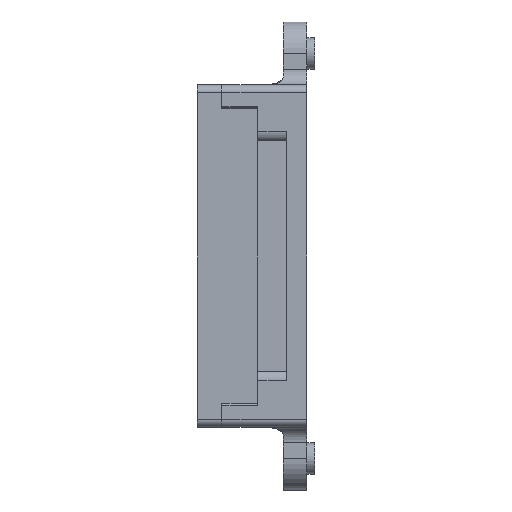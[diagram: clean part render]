
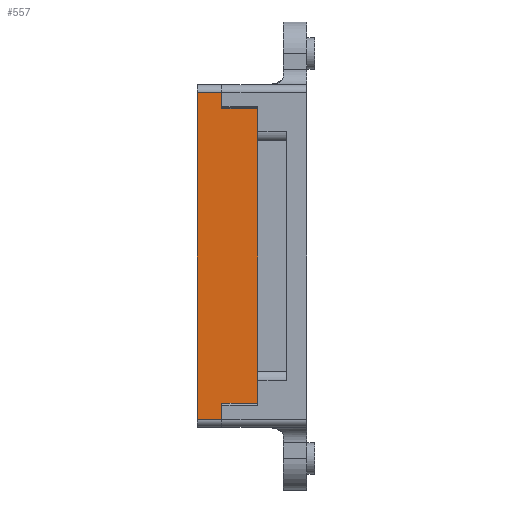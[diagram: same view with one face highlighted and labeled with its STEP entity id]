
A CAD part, left-side view. The second image highlights one B-rep face of the part: STEP entity #557.
In plain terms, the highlighted planar face has unit normal (-1, 0, 0) as drawn and (0, 0, 1) by its records, which use the part's own axes.
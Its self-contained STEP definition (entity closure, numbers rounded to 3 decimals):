
#199=PLANE('',#5556);
#557=ADVANCED_FACE('NONE',(#922),#199,.F.);
#922=FACE_OUTER_BOUND('',#1240,.T.);
#1240=EDGE_LOOP('',(#3326,#3327,#3328,#3329,#3330,#3331,#3332,#3333));
#1638=LINE('',#8490,#2066);
#1646=LINE('',#8514,#2074);
#1668=LINE('',#8562,#2096);
#1671=LINE('',#8568,#2099);
#1672=LINE('',#8570,#2100);
#1673=LINE('',#8573,#2101);
#1674=LINE('',#8574,#2102);
#1675=LINE('',#8575,#2103);
#2066=VECTOR('',#6856,1.);
#2074=VECTOR('',#6872,1.);
#2096=VECTOR('',#6910,1.);
#2099=VECTOR('',#6915,1.);
#2100=VECTOR('',#6918,1.);
#2101=VECTOR('',#6919,1.);
#2102=VECTOR('',#6920,1.);
#2103=VECTOR('',#6921,1.);
#3326=ORIENTED_EDGE('',*,*,#4728,.T.);
#3327=ORIENTED_EDGE('',*,*,#4729,.T.);
#3328=ORIENTED_EDGE('',*,*,#4687,.F.);
#3329=ORIENTED_EDGE('',*,*,#4724,.F.);
#3330=ORIENTED_EDGE('',*,*,#4730,.T.);
#3331=ORIENTED_EDGE('',*,*,#4727,.T.);
#3332=ORIENTED_EDGE('',*,*,#4699,.F.);
#3333=ORIENTED_EDGE('',*,*,#4731,.T.);
#4021=VERTEX_POINT('',#8489);
#4022=VERTEX_POINT('',#8491);
#4033=VERTEX_POINT('',#8513);
#4034=VERTEX_POINT('',#8515);
#4051=VERTEX_POINT('',#8561);
#4052=VERTEX_POINT('',#8565);
#4054=VERTEX_POINT('',#8571);
#4055=VERTEX_POINT('',#8572);
#4687=EDGE_CURVE('NONE',#4021,#4022,#1638,.T.);
#4699=EDGE_CURVE('NONE',#4033,#4034,#1646,.T.);
#4724=EDGE_CURVE('NONE',#4051,#4021,#1668,.T.);
#4727=EDGE_CURVE('NONE',#4052,#4034,#1671,.T.);
#4728=EDGE_CURVE('NONE',#4054,#4055,#1672,.T.);
#4729=EDGE_CURVE('NONE',#4055,#4022,#1673,.T.);
#4730=EDGE_CURVE('NONE',#4051,#4052,#1674,.T.);
#4731=EDGE_CURVE('NONE',#4033,#4054,#1675,.T.);
#5556=AXIS2_PLACEMENT_3D('',#8576,#6922,#6923);
#6856=DIRECTION('',(1.,0.,0.));
#6872=DIRECTION('',(1.,0.,0.));
#6910=DIRECTION('',(0.,-1.,0.));
#6915=DIRECTION('',(0.,-1.,0.));
#6918=DIRECTION('',(1.,0.,0.));
#6919=DIRECTION('',(0.,1.,0.));
#6920=DIRECTION('',(-1.,0.,0.));
#6921=DIRECTION('',(0.,-1.,0.));
#6922=DIRECTION('',(0.,0.,-1.));
#6923=DIRECTION('',(-1.,0.,0.));
#8489=CARTESIAN_POINT('',(18.75,2.1,38.75));
#8490=CARTESIAN_POINT('',(0.,2.1,38.75));
#8491=CARTESIAN_POINT('',(20.75,2.1,38.75));
#8513=CARTESIAN_POINT('',(-20.75,2.1,38.75));
#8514=CARTESIAN_POINT('',(0.,2.1,38.75));
#8515=CARTESIAN_POINT('',(-18.75,2.1,38.75));
#8561=CARTESIAN_POINT('',(18.75,6.65,38.75));
#8562=CARTESIAN_POINT('',(18.75,50.826,38.75));
#8565=CARTESIAN_POINT('',(-18.75,6.65,38.75));
#8568=CARTESIAN_POINT('',(-18.75,50.826,38.75));
#8570=CARTESIAN_POINT('',(0.,-1.,38.75));
#8571=CARTESIAN_POINT('',(-20.75,-1.,38.75));
#8572=CARTESIAN_POINT('',(20.75,-1.,38.75));
#8573=CARTESIAN_POINT('',(20.75,2.1,38.75));
#8574=CARTESIAN_POINT('',(-18.75,6.65,38.75));
#8575=CARTESIAN_POINT('',(-20.75,-1.,38.75));
#8576=CARTESIAN_POINT('',(-18.75,50.826,38.75));
